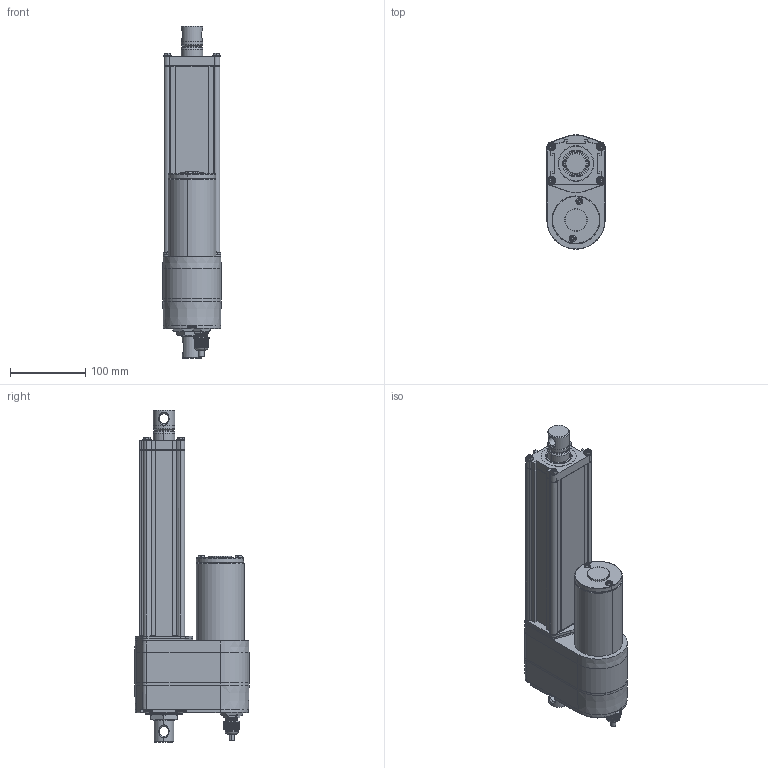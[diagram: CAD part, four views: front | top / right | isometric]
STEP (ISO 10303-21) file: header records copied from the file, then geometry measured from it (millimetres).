
FILE_DESCRIPTION (( 'STEP AP203' ), '1' );
FILE_NAME ('ID12-B-100-LT&POT-IP69K.STEP', '2022-10-19T09:06:06', ( '' ), ( '' ), 'SwSTEP 2.0', 'SolidWorks 2020', '' );
FILE_SCHEMA (( 'CONFIG_CONTROL_DESIGN' ));
Length unit declared in the file: millimetre
Products named in the file (3): ID12-B-100-LT&POT-IP69K; ID12-B-1; ID12-B-2
Assembly tree (2 placements, depth 2):
  ID12-B-100-LT&POT-IP69K
    ID12-B-1
    ID12-B-2
Bounding box: 77.3 x 151.8 x 440.5 mm (x, y, z)
Volume: 2332443.7 mm3; surface area: 245937.6 mm2
Topology: 2 solids, 30 shells, 2557 faces, 6575 edges, 4162 vertices
Faces by surface type: plane 1355, cylinder 773, bspline 163, cone 127, torus 123, sphere 16
Entity records: 87114 total; most frequent: CARTESIAN_POINT 27660, ORIENTED_EDGE 13114, DIRECTION 11536, EDGE_CURVE 6557, VERTEX_POINT 4162, AXIS2_PLACEMENT_3D 4155, VECTOR 3226, LINE 3226
